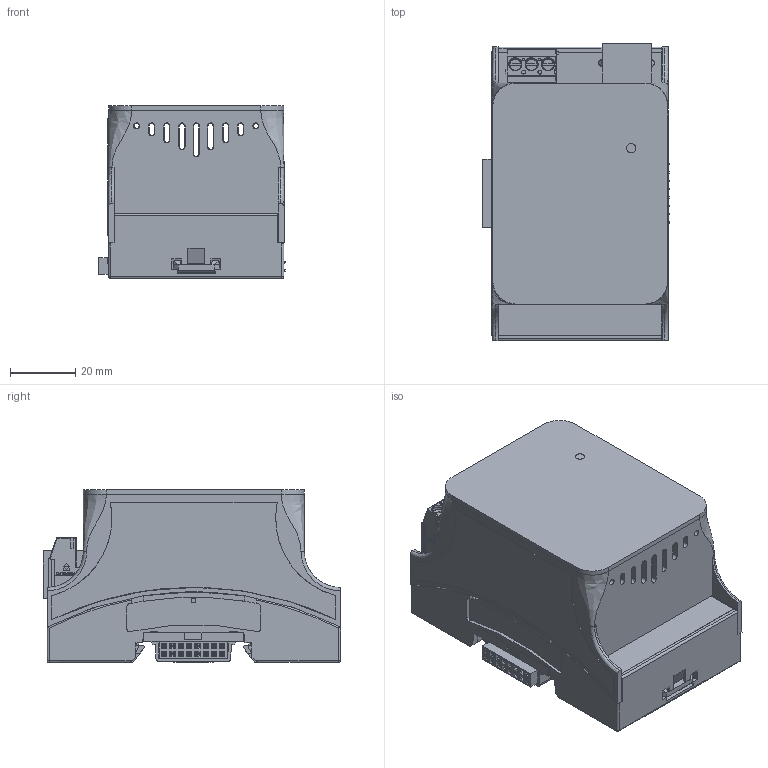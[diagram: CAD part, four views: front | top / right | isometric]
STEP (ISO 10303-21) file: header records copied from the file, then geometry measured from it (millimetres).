
FILE_DESCRIPTION(/* description */ (''),/* implementation_level */ '2;1');
FILE_NAME(/* name */ 'D:\WorkIMT\Project IMT\МВВ\v1\3D на сайт\ШУ (IN).stp',/* time_stamp */ '2026-06-09T08:47:35+03:00',/* author */ ('admin'),/* organization */ (''),/* preprocessor_version */ 'ST-DEVELOPER v17.2',/* originating_system */ 'Autodesk Inventor 2019',/* authorisation */ '');
FILE_SCHEMA (('AUTOMOTIVE_DESIGN { 1 0 10303 214 3 1 1 }'));
Products named in the file (1): MT.GARA-DIN.ШУ.XXXV.XX.XX 2
Bounding box: 57.13 x 90.84 x 52.89 mm (x, y, z)
Volume: 56966.9 mm3; surface area: 69584.5 mm2
Topology: 1 solids, 28 shells, 4168 faces, 11394 edges, 7280 vertices
Faces by surface type: plane 3507, cylinder 276, bspline 190, cone 155, torus 29, sphere 11
Full cylindrical faces by diameter (mm): 0.2 x4, 0.3 x1, 1.2 x18, 1.8 x2, 2 x2, 2.2 x8, 2.3 x2, 4.05 x3
Entity records: 143524 total; most frequent: CARTESIAN_POINT 35380, ORIENTED_EDGE 22760, DIRECTION 19887, EDGE_CURVE 11380, LINE 9655, VECTOR 9655, VERTEX_POINT 7280, AXIS2_PLACEMENT_3D 5116
